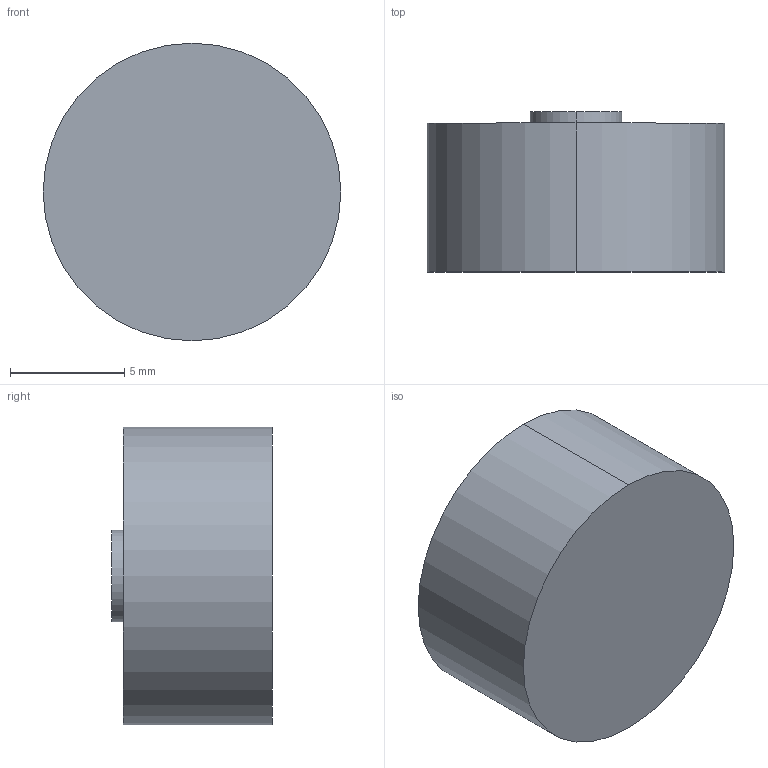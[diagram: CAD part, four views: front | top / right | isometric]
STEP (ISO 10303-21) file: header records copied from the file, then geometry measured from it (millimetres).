
FILE_DESCRIPTION (( 'STEP AP203' ), '1' );
FILE_NAME ('reb5-100kg.STEP', '2018-03-29T23:19:07', ( '' ), ( '' ), 'SwSTEP 2.0', 'SolidWorks 2016', '' );
FILE_SCHEMA (( 'CONFIG_CONTROL_DESIGN' ));
Length unit declared in the file: millimetre
Products named in the file (1): reb5-100kg
Bounding box: 13 x 7 x 13 mm (x, y, z)
Volume: 869 mm3; surface area: 537.2 mm2
Topology: 1 solids, 1 shells, 7 faces, 12 edges, 8 vertices
Faces by surface type: cylinder 4, plane 3
Entity records: 251 total; most frequent: DIRECTION 36, CARTESIAN_POINT 28, ORIENTED_EDGE 24, AXIS2_PLACEMENT_3D 16, EDGE_CURVE 12, VERTEX_POINT 8, PERSON_AND_ORGANIZATION 8, EDGE_LOOP 8
